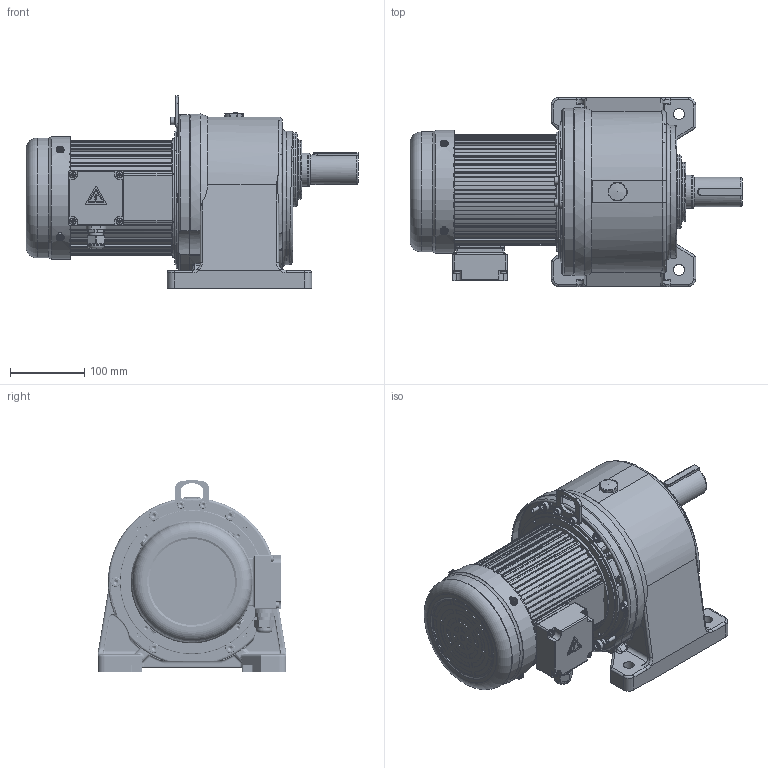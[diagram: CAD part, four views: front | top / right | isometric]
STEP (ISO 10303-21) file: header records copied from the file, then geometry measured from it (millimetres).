
FILE_DESCRIPTION(/* description */ (''),/* implementation_level */ '2;1');
FILE_NAME(/* name */ 'PST00001177_A0-小型交流减速电机-448_255_236.8-Φ40_85_K10-CH40-750-160S2-G1-LD_T1.stp',/* time_stamp */ '2025-04-23T08:28:12+08:00',/* author */ (''),/* organization */ (''),/* preprocessor_version */ 'ST-DEVELOPER v18.102',/* originating_system */ 'SIEMENS PLM Software NX 2027',/* authorisation */ '');
FILE_SCHEMA (('AP203_CONFIGURATION_CONTROLLED_3D_DESIGN_OF_MECHANICAL_PARTS_AND_ASSEMBLIES_MIM_LF { 1 0 10303 403 2 1 2}'));
Length unit declared in the file: millimetre
Products named in the file (1): A0_objects
Bounding box: 448 x 255 x 259.8 mm (x, y, z)
Volume: 3395254.1 mm3; surface area: 1104073 mm2
Topology: 27 solids, 28 shells, 4900 faces, 12329 edges, 7633 vertices
Faces by surface type: plane 2370, cylinder 1392, cone 487, torus 352, bspline 238, sphere 31, revolution 30
Full cylindrical faces by diameter (mm): 1 x1, 1.8 x1, 2 x1, 2.4 x1, 3 x2, 4 x1, 4.2 x13, 4.336 x4, 4.5 x1, 4.51 x4, 4.6 x4, 4.826 x6, 5 x28, 5.795 x2, 6.4 x8, 6.8 x6, 7 x2, 7.76 x6, 8 x1, 8.5 x10, 9 x4, 10 x6, 11 x5, 13 x6, 14 x6, 14.5 x1, 15 x4, 15.76 x1, 16 x1, 16.6 x1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
Entity records: 154862 total; most frequent: CARTESIAN_POINT 38745, DIRECTION 24139, ORIENTED_EDGE 23354, EDGE_CURVE 11677, AXIS2_PLACEMENT_3D 9366, VERTEX_POINT 7424, EDGE_LOOP 5519, LINE 5377
